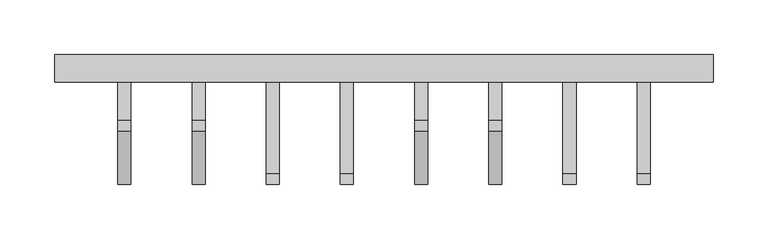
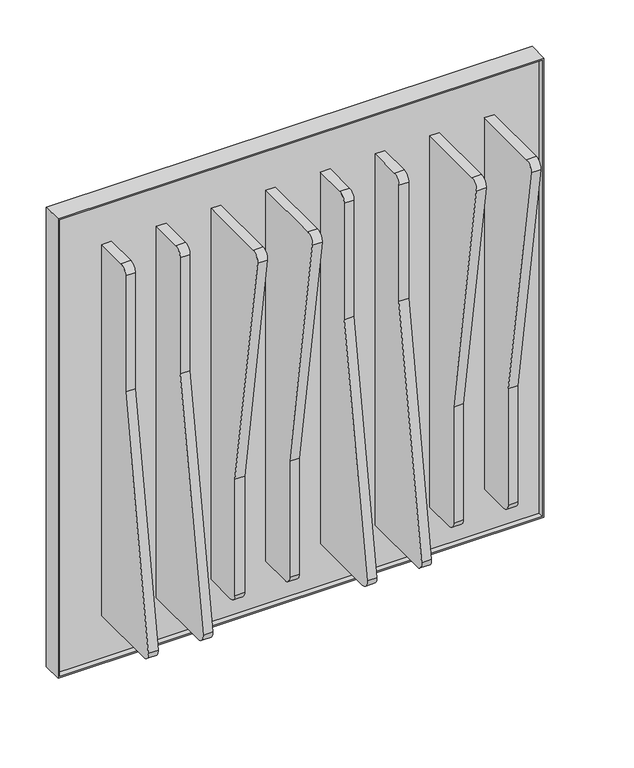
"""IFC4 building model written with IfcOpenShell, lengths in millimetres: proxy geometry, Frames_Plungle 8.3dm."""

from ifc_helpers import new_model, si_unit, point, frame, frame_2d, origin, place, context, project, spatial, polyline, circle_curve, trimmed, segment, composite_curve, outline, extrude, source, transform, mapped, element, save


def generic_models_d426de22(model_context):
    return source(origin(), model_context, "Body", "SweptSolid", [
        extrude(outline(composite_curve([segment(trimmed(circle_curve(frame_2d((60.4104725, 1203.4346584)), 10.0), [point((50.5301978, 1201.8918778))], [point((60.4104725, 1213.4346584))], False, "CARTESIAN"), True, "CONTINUOUS"), segment(polyline([(60.4104725, 1213.4346584), (151.027821, 1213.4346584), (151.027821, 725.4346584), (109.527821, 725.4346584)]), True, "CONTINUOUS"), segment(trimmed(circle_curve(frame_2d((109.527821, 735.4346584)), 10.0), [point((109.527821, 725.4346584))], [point((99.527821, 735.4346584))], False, "CARTESIAN"), True, "CONTINUOUS"), segment(polyline([(99.527821, 735.4346584), (99.527821, 888.1013251), (50.5301978, 1201.8918778)]), True, "CONTINUOUS")], self_intersect=False)), frame((617.5890387, 0.0, 0.0), z_axis=(1.0, 0.0, 0.0), x_axis=(0.0, 1.0, 0.0)), (0.0, 0.0, 1.0), 12.0),
        extrude(outline(composite_curve([segment(trimmed(circle_curve(frame_2d((60.4104725, 1203.4346584)), 10.0), [point((50.5301978, 1201.8918778))], [point((60.4104725, 1213.4346584))], False, "CARTESIAN"), True, "CONTINUOUS"), segment(polyline([(60.4104725, 1213.4346584), (151.027821, 1213.4346584), (151.027821, 725.4346584), (109.527821, 725.4346584)]), True, "CONTINUOUS"), segment(trimmed(circle_curve(frame_2d((109.527821, 735.4346584)), 10.0), [point((109.527821, 725.4346584))], [point((99.527821, 735.4346584))], False, "CARTESIAN"), True, "CONTINUOUS"), segment(polyline([(99.527821, 735.4346584), (99.527821, 888.1013251), (50.5301978, 1201.8918778)]), True, "CONTINUOUS")], self_intersect=False)), frame((549.5890387, 0.0, 0.0), z_axis=(1.0, 0.0, 0.0), x_axis=(0.0, 1.0, 0.0)), (0.0, 0.0, 1.0), 12.0),
        extrude(outline(composite_curve([segment(trimmed(circle_curve(frame_2d((60.4104725, 1203.4346584)), 10.0), [point((50.5301978, 1201.8918778))], [point((60.4104725, 1213.4346584))], False, "CARTESIAN"), True, "CONTINUOUS"), segment(polyline([(60.4104725, 1213.4346584), (151.027821, 1213.4346584), (151.027821, 725.4346584), (109.527821, 725.4346584)]), True, "CONTINUOUS"), segment(trimmed(circle_curve(frame_2d((109.527821, 735.4346584)), 10.0), [point((109.527821, 725.4346584))], [point((99.527821, 735.4346584))], False, "CARTESIAN"), True, "CONTINUOUS"), segment(polyline([(99.527821, 735.4346584), (99.527821, 888.1013251), (50.5301978, 1201.8918778)]), True, "CONTINUOUS")], self_intersect=False)), frame((277.5890387, 0.0, 0.0), z_axis=(1.0, 0.0, 0.0), x_axis=(0.0, 1.0, 0.0)), (0.0, 0.0, 1.0), 12.0),
        extrude(outline(composite_curve([segment(trimmed(circle_curve(frame_2d((60.4104725, 1203.4346584)), 10.0), [point((50.5301978, 1201.8918778))], [point((60.4104725, 1213.4346584))], False, "CARTESIAN"), True, "CONTINUOUS"), segment(polyline([(60.4104725, 1213.4346584), (151.027821, 1213.4346584), (151.027821, 725.4346584), (109.527821, 725.4346584)]), True, "CONTINUOUS"), segment(trimmed(circle_curve(frame_2d((109.527821, 735.4346584)), 10.0), [point((109.527821, 725.4346584))], [point((99.527821, 735.4346584))], False, "CARTESIAN"), True, "CONTINUOUS"), segment(polyline([(99.527821, 735.4346584), (99.527821, 888.1013251), (50.5301978, 1201.8918778)]), True, "CONTINUOUS")], self_intersect=False)), frame((345.5890387, 0.0, 0.0), z_axis=(1.0, 0.0, 0.0), x_axis=(0.0, 1.0, 0.0)), (0.0, 0.0, 1.0), 12.0),
        extrude(outline(composite_curve([segment(polyline([(50.5301978, 736.9776378), (99.527821, 1050.7681905), (99.527821, 1203.4348572)]), True, "CONTINUOUS"), segment(trimmed(circle_curve(frame_2d((109.527821, 1203.4348572)), 10.0), [point((99.527821, 1203.4348572))], [point((109.527821, 1213.4348572))], False, "CARTESIAN"), True, "CONTINUOUS"), segment(polyline([(109.527821, 1213.4348572), (151.027821, 1213.4348572), (151.027821, 725.4348572), (60.4104725, 725.4348572)]), True, "CONTINUOUS"), segment(trimmed(circle_curve(frame_2d((60.4104725, 735.4348572)), 10.0), [point((60.4104725, 725.4348572))], [point((50.5301978, 736.9776378))], False, "CARTESIAN"), True, "CONTINUOUS")], self_intersect=False)), frame((141.5892828, 0.0, 0.0), z_axis=(1.0, 0.0, 0.0), x_axis=(0.0, 1.0, 0.0)), (0.0, 0.0, 1.0), 12.0),
        extrude(outline(composite_curve([segment(polyline([(50.5301978, 736.9776378), (99.527821, 1050.7681905), (99.527821, 1203.4348572)]), True, "CONTINUOUS"), segment(trimmed(circle_curve(frame_2d((109.527821, 1203.4348572)), 10.0), [point((99.527821, 1203.4348572))], [point((109.527821, 1213.4348572))], False, "CARTESIAN"), True, "CONTINUOUS"), segment(polyline([(109.527821, 1213.4348572), (151.027821, 1213.4348572), (151.027821, 725.4348572), (60.4104725, 725.4348572)]), True, "CONTINUOUS"), segment(trimmed(circle_curve(frame_2d((60.4104725, 735.4348572)), 10.0), [point((60.4104725, 725.4348572))], [point((50.5301978, 736.9776378))], False, "CARTESIAN"), True, "CONTINUOUS")], self_intersect=False)), frame((481.5892828, 0.0, 0.0), z_axis=(1.0, 0.0, 0.0), x_axis=(0.0, 1.0, 0.0)), (0.0, 0.0, 1.0), 12.0),
        extrude(outline(composite_curve([segment(polyline([(50.5301978, 736.9776378), (99.527821, 1050.7681905), (99.527821, 1203.4348572)]), True, "CONTINUOUS"), segment(trimmed(circle_curve(frame_2d((109.527821, 1203.4348572)), 10.0), [point((99.527821, 1203.4348572))], [point((109.527821, 1213.4348572))], False, "CARTESIAN"), True, "CONTINUOUS"), segment(polyline([(109.527821, 1213.4348572), (151.027821, 1213.4348572), (151.027821, 725.4348572), (60.4104725, 725.4348572)]), True, "CONTINUOUS"), segment(trimmed(circle_curve(frame_2d((60.4104725, 735.4348572)), 10.0), [point((60.4104725, 725.4348572))], [point((50.5301978, 736.9776378))], False, "CARTESIAN"), True, "CONTINUOUS")], self_intersect=False)), frame((413.5892828, 0.0, 0.0), z_axis=(1.0, 0.0, 0.0), x_axis=(0.0, 1.0, 0.0)), (0.0, 0.0, 1.0), 12.0),
        extrude(outline(composite_curve([segment(polyline([(50.5301978, 736.9776378), (99.527821, 1050.7681905), (99.527821, 1203.4348572)]), True, "CONTINUOUS"), segment(trimmed(circle_curve(frame_2d((109.527821, 1203.4348572)), 10.0), [point((99.527821, 1203.4348572))], [point((109.527821, 1213.4348572))], False, "CARTESIAN"), True, "CONTINUOUS"), segment(polyline([(109.527821, 1213.4348572), (151.027821, 1213.4348572), (151.027821, 725.4348572), (60.4104725, 725.4348572)]), True, "CONTINUOUS"), segment(trimmed(circle_curve(frame_2d((60.4104725, 735.4348572)), 10.0), [point((60.4104725, 725.4348572))], [point((50.5301978, 736.9776378))], False, "CARTESIAN"), True, "CONTINUOUS")], self_intersect=False)), frame((209.5892828, 0.0, 0.0), z_axis=(1.0, 0.0, 0.0), x_axis=(0.0, 1.0, 0.0)), (0.0, 0.0, 1.0), 12.0),
        extrude(outline(polyline([(667.4346584, 687.5889119), (1271.4346584, 687.5889119), (1271.4346584, 83.5889119), (667.4346584, 83.5889119), (667.4346584, 687.5889119)]), holes=[polyline([(669.4346584, 685.5889119), (669.4346584, 85.5889119), (1269.4346584, 85.5889119), (1269.4346584, 685.5889119), (669.4346584, 685.5889119)])]), frame((0.0, 144.327821, 0.0), z_axis=(0.0, 1.0, 0.0), x_axis=(0.0, 0.0, 1.0)), (0.0, 0.0, 1.0), 25.4),
        extrude(outline(polyline([(85.5889119, 163.027821), (685.5889119, 163.027821), (685.5889119, 151.027821), (85.5889119, 151.027821), (85.5889119, 163.027821)])), frame((0.0, 0.0, 669.4346584), z_axis=(0.0, 0.0, 1.0), x_axis=(1.0, 0.0, 0.0)), (0.0, 0.0, 1.0), 600.0),
    ])


if __name__ == "__main__":
    model = new_model("IFC4")
    model_context = context("Model", 3, world=origin())
    ifc_project = project(units=[si_unit("LENGTHUNIT", "METRE", prefix="MILLI")], contexts=[model_context])
    site = spatial("IfcSite", under=ifc_project)
    building = spatial("IfcBuilding", under=site)
    placement = place(None, origin())
    generic_models_shape = generic_models_d426de22(model_context)
    element("IfcBuildingElementProxy", 1, Name="Frames_Plungle 8.3dm", ObjectType="Frames_Plungle 8.3dm", at=placement, inside=building, context=model_context, shape_type="MappedRepresentation", body=[
        mapped(generic_models_shape, transform((0.0, 0.0, 0.0), x_axis=(1.0, 0.0, 0.0), y_axis=(0.0, 1.0, 0.0), z_axis=(0.0, 0.0, 1.0))),
    ])
    save(model, "model.ifc")
